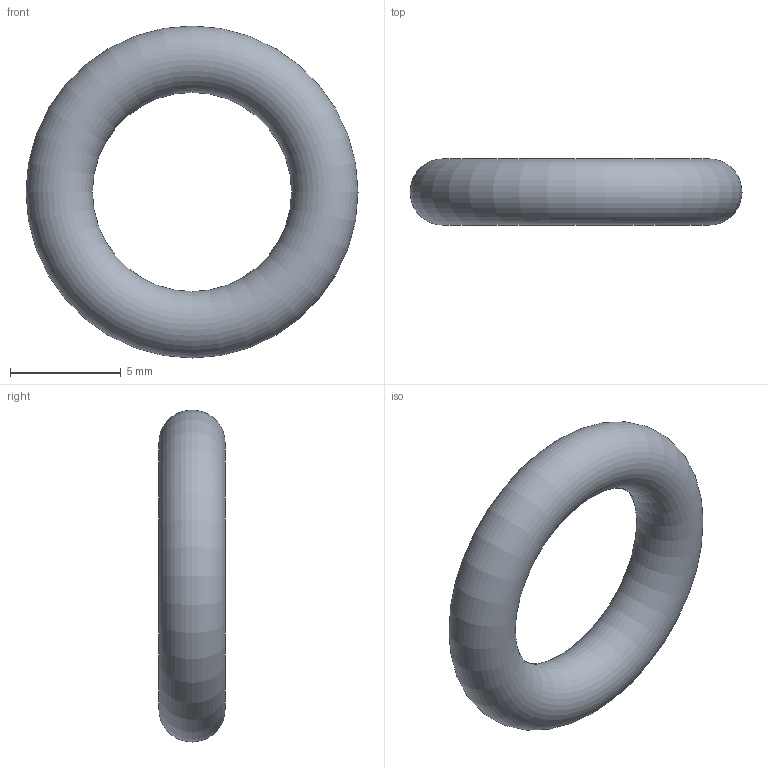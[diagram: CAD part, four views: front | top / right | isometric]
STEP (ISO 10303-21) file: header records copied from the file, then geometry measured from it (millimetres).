
FILE_DESCRIPTION( ( 'STEP AP203' ), '1' );
FILE_NAME( 'C:/Temp/Ganter_Step_05_03_2020/data/3_5/or638/O-Ring OR638-9.00-3.00-70.stp', '2020-03-12T13:44:29', ( 'License CC BY-ND 4.0' ), ( 'CADENAS' ), ' ', 'PARTsolutions', ' ' );
FILE_SCHEMA( ( 'CONFIG_CONTROL_DESIGN' ) );
Length unit declared in the file: millimetre
Products named in the file (1): _O-Ring OR638-9.00-3.00-70
Bounding box: 15 x 3 x 15 mm (x, y, z)
Volume: 266.5 mm3; surface area: 355.3 mm2
Topology: 1 solids, 1 shells, 1 faces, 2 edges, 1 vertices
Faces by surface type: torus 1
Entity records: 62 total; most frequent: CC_DESIGN_PERSON_AND_ORGANIZATION_ASSIGNMENT 5, PERSON_AND_ORGANIZATION_ROLE 4, DIRECTION 4, CARTESIAN_POINT 3, DATE_TIME_ROLE 2, CC_DESIGN_DATE_AND_TIME_ASSIGNMENT 2, AXIS2_PLACEMENT_3D 2, DIMENSIONAL_EXPONENTS 2
